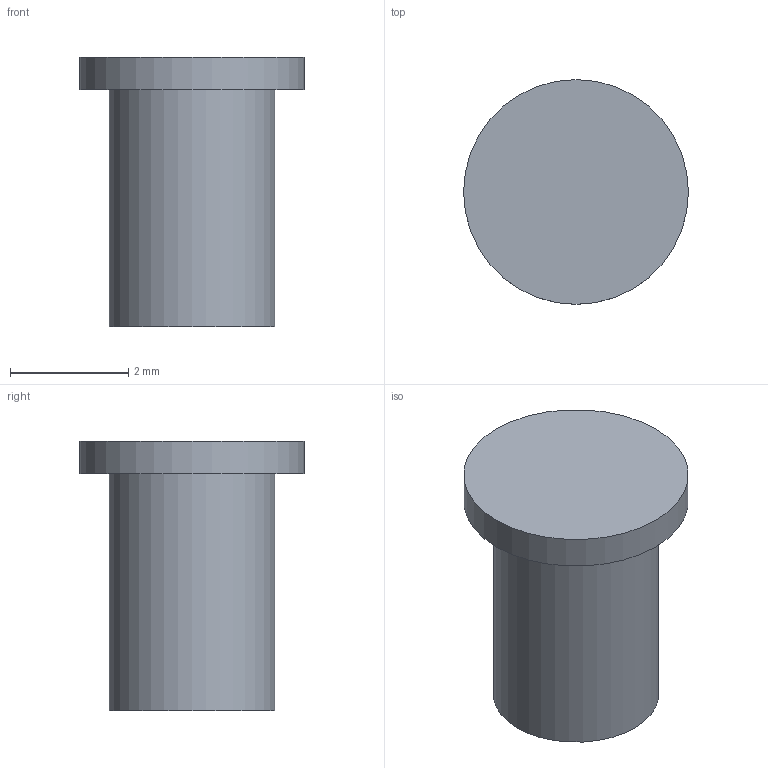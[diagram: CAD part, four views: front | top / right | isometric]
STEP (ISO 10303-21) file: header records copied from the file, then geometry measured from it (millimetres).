
FILE_DESCRIPTION(('Open CASCADE Model'),'2;1');
FILE_NAME('Open CASCADE Shape Model','2026-08-28T00:57:55',('Author'),( 'Open CASCADE'),'Open CASCADE STEP processor 7.8','Open CASCADE 7.8' ,'Unknown');
FILE_SCHEMA(('AUTOMOTIVE_DESIGN { 1 0 10303 214 1 1 1 1 }'));
Length unit declared in the file: millimetre
Products named in the file (1): Open CASCADE STEP translator 7.8 4
Bounding box: 3.8 x 3.8 x 4.55 mm (x, y, z)
Volume: 30.9 mm3; surface area: 64.4 mm2
Topology: 1 solids, 1 shells, 5 faces, 6 edges, 4 vertices
Faces by surface type: plane 3, cylinder 2
Full cylindrical faces by diameter (mm): 2.8 x1, 3.8 x1
Entity records: 192 total; most frequent: DIRECTION 34, CARTESIAN_POINT 28, ORIENTED_EDGE 12, PCURVE 12, DEFINITIONAL_REPRESENTATION 12, AXIS2_PLACEMENT_3D 10, LINE 10, VECTOR 10
